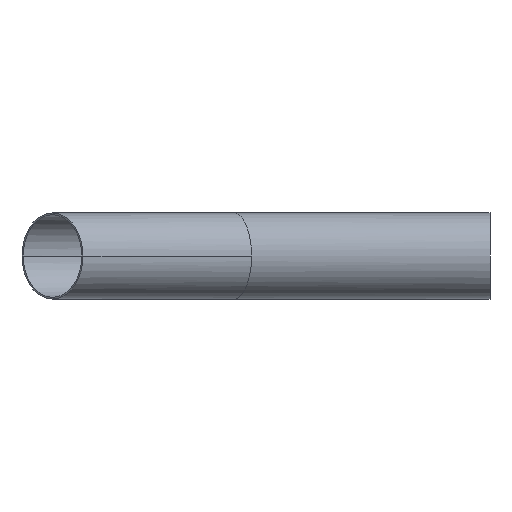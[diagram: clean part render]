
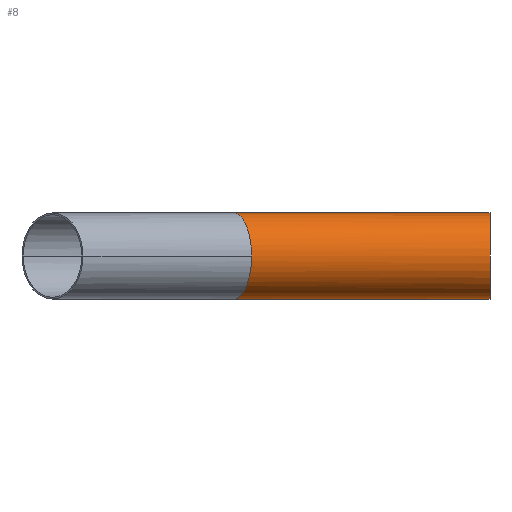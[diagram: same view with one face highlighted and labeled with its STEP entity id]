
A CAD part, left-side view. The second image highlights one B-rep face of the part: STEP entity #8.
In plain terms, the highlighted cylindrical face has radius 50.8 mm (diameter 101.6 mm), a partial arc.
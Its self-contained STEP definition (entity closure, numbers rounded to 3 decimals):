
#8 = ADVANCED_FACE ( 'NONE', ( #392 ), #276, .T. ) ;
#26 = VERTEX_POINT ( 'NONE', #230 ) ;
#38 = CARTESIAN_POINT ( 'NONE',  ( -50.8, -21.042, 0. ) ) ;
#42 = EDGE_CURVE ( 'NONE', #26, #369, #367, .T. ) ;
#63 = EDGE_CURVE ( 'NONE', #221, #92, #213, .T. ) ;
#66 = DIRECTION ( 'NONE',  ( 0., 1., 0. ) ) ;
#92 = VERTEX_POINT ( 'NONE', #269 ) ;
#98 = DIRECTION ( 'NONE',  ( 0., 1., 0. ) ) ;
#110 = CARTESIAN_POINT ( 'NONE',  ( -29.758, -12.326, -50.8 ) ) ;
#111 = CARTESIAN_POINT ( 'NONE',  ( 0., -302.2, 0. ) ) ;
#115 = CIRCLE ( 'NONE', #295, 50.8 ) ;
#150 = DIRECTION ( 'NONE',  ( 0., 0., 1. ) ) ;
#154 = DIRECTION ( 'NONE',  ( 0., 0., 1. ) ) ;
#163 = EDGE_CURVE ( 'NONE', #331, #92, #417, .T. ) ;
#167 = CARTESIAN_POINT ( 'NONE',  ( -29.758, -12.326, 50.8 ) ) ;
#172 = ORIENTED_EDGE ( 'NONE', *, *, #163, .F. ) ;
#198 = VECTOR ( 'NONE', #66, 1000. ) ;
#205 = ORIENTED_EDGE ( 'NONE', *, *, #348, .T. ) ;
#207 = CARTESIAN_POINT ( 'NONE',  ( 0., 0., 50.8 ) ) ;
#209 = EDGE_LOOP ( 'NONE', ( #172, #336, #271, #205, #382 ) ) ;
#213 =( BOUNDED_CURVE ( )  B_SPLINE_CURVE ( 3, ( #371, #483, #110, #262 ),
 .UNSPECIFIED., .F., .F. ) 
 B_SPLINE_CURVE_WITH_KNOTS ( ( 4, 4 ),
 ( 3.142, 4.712 ),
 .UNSPECIFIED. ) 
 CURVE ( )  GEOMETRIC_REPRESENTATION_ITEM ( )  RATIONAL_B_SPLINE_CURVE ( ( 1., 0.805, 0.805, 1. ) ) 
 REPRESENTATION_ITEM ( '' )  );
#221 = VERTEX_POINT ( 'NONE', #429 ) ;
#230 = CARTESIAN_POINT ( 'NONE',  ( 0., -302.2, 50.8 ) ) ;
#262 = CARTESIAN_POINT ( 'NONE',  ( 0., 0., -50.8 ) ) ;
#269 = CARTESIAN_POINT ( 'NONE',  ( 0., 0., -50.8 ) ) ;
#271 = ORIENTED_EDGE ( 'NONE', *, *, #42, .T. ) ;
#273 =( BOUNDED_CURVE ( )  B_SPLINE_CURVE ( 3, ( #390, #167, #313, #38 ),
 .UNSPECIFIED., .F., .T. ) 
 B_SPLINE_CURVE_WITH_KNOTS ( ( 4, 4 ),
 ( 1.571, 3.142 ),
 .UNSPECIFIED. ) 
 CURVE ( )  GEOMETRIC_REPRESENTATION_ITEM ( )  RATIONAL_B_SPLINE_CURVE ( ( 1., 0.805, 0.805, 1. ) ) 
 REPRESENTATION_ITEM ( '' )  );
#276 = CYLINDRICAL_SURFACE ( 'NONE', #403, 50.8 ) ;
#295 = AXIS2_PLACEMENT_3D ( 'NONE', #409, #372, #150 ) ;
#299 = CARTESIAN_POINT ( 'NONE',  ( 0., -302.2, 50.8 ) ) ;
#308 = VECTOR ( 'NONE', #98, 1000. ) ;
#313 = CARTESIAN_POINT ( 'NONE',  ( -50.8, -21.042, 29.758 ) ) ;
#331 = VERTEX_POINT ( 'NONE', #463 ) ;
#336 = ORIENTED_EDGE ( 'NONE', *, *, #384, .T. ) ;
#348 = EDGE_CURVE ( 'NONE', #369, #221, #273, .T. ) ;
#367 = LINE ( 'NONE', #299, #198 ) ;
#369 = VERTEX_POINT ( 'NONE', #207 ) ;
#371 = CARTESIAN_POINT ( 'NONE',  ( -50.8, -21.042, 0. ) ) ;
#372 = DIRECTION ( 'NONE',  ( 0., 1., 0. ) ) ;
#382 = ORIENTED_EDGE ( 'NONE', *, *, #63, .T. ) ;
#384 = EDGE_CURVE ( 'NONE', #331, #26, #115, .T. ) ;
#390 = CARTESIAN_POINT ( 'NONE',  ( 0., 0., 50.8 ) ) ;
#392 = FACE_OUTER_BOUND ( 'NONE', #209, .T. ) ;
#402 = CARTESIAN_POINT ( 'NONE',  ( 0., -302.2, -50.8 ) ) ;
#403 = AXIS2_PLACEMENT_3D ( 'NONE', #111, #423, #154 ) ;
#409 = CARTESIAN_POINT ( 'NONE',  ( 0., -302.2, 0. ) ) ;
#417 = LINE ( 'NONE', #402, #308 ) ;
#423 = DIRECTION ( 'NONE',  ( 0., 1., 0. ) ) ;
#429 = CARTESIAN_POINT ( 'NONE',  ( -50.8, -21.042, 0. ) ) ;
#463 = CARTESIAN_POINT ( 'NONE',  ( 0., -302.2, -50.8 ) ) ;
#483 = CARTESIAN_POINT ( 'NONE',  ( -50.8, -21.042, -29.758 ) ) ;
